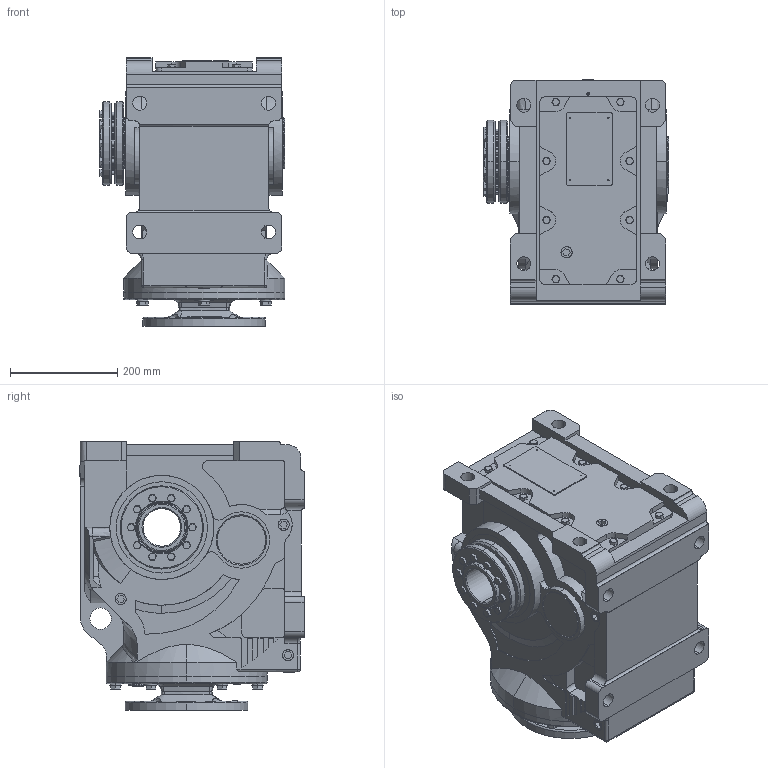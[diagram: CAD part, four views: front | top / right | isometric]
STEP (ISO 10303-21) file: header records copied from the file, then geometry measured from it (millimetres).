
FILE_DESCRIPTION (( 'STEP AP203' ), '1' );
FILE_NAME ('KHN97-182TC-B-POWER LOCK.STEP', '2020-11-25T03:05:23', ( 'Microsoft' ), ( 'Microsoft' ), 'SwSTEP 2.0', 'SolidWorks 2012', '' );
FILE_SCHEMA (( 'CONFIG_CONTROL_DESIGN' ));
Length unit declared in the file: millimetre
Products named in the file (1): KHN97-182TC-B-POWER LOCK
Bounding box: 345 x 417.5 x 501 mm (x, y, z)
Volume: 40886332.7 mm3; surface area: 1434250.3 mm2
Topology: 2 solids, 26 shells, 1760 faces, 4394 edges, 2786 vertices
Faces by surface type: plane 747, cylinder 489, cone 343, bspline 153, torus 26, sphere 2
Entity records: 64539 total; most frequent: CARTESIAN_POINT 23128, ORIENTED_EDGE 8684, DIRECTION 8350, EDGE_CURVE 4342, AXIS2_PLACEMENT_3D 3054, VERTEX_POINT 2786, LINE 2242, VECTOR 2242
